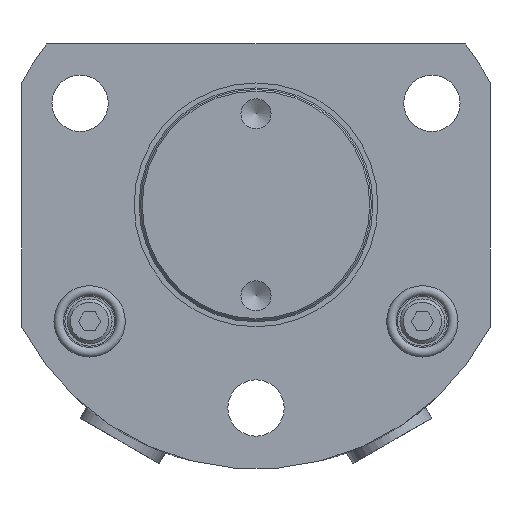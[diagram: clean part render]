
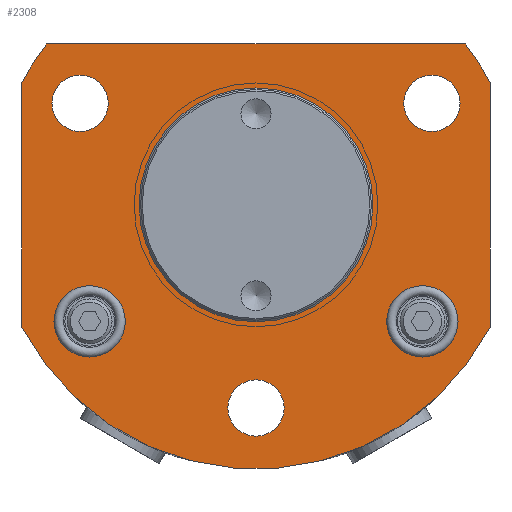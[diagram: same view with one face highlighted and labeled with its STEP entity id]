
A CAD part, front view. The second image highlights one B-rep face of the part: STEP entity #2308.
In plain terms, the highlighted planar face has unit normal (0, -1, 0).
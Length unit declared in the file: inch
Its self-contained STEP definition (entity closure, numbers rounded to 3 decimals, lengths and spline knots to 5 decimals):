
#152=FACE_BOUND('',#530,.T.);
#153=FACE_BOUND('',#531,.T.);
#154=FACE_BOUND('',#532,.T.);
#155=FACE_BOUND('',#533,.T.);
#156=FACE_BOUND('',#534,.T.);
#157=FACE_BOUND('',#535,.T.);
#194=PLANE('',#2683);
#355=FACE_OUTER_BOUND('',#529,.T.);
#529=EDGE_LOOP('',(#1829,#1830,#1831,#1832,#1833,#1834));
#530=EDGE_LOOP('',(#1835));
#531=EDGE_LOOP('',(#1836));
#532=EDGE_LOOP('',(#1837));
#533=EDGE_LOOP('',(#1838));
#534=EDGE_LOOP('',(#1839));
#535=EDGE_LOOP('',(#1840));
#652=CIRCLE('',#2567,0.2195);
#658=CIRCLE('',#2579,0.2195);
#674=CIRCLE('',#2610,0.17325);
#678=CIRCLE('',#2617,0.17325);
#682=CIRCLE('',#2624,0.17325);
#685=CIRCLE('',#2630,0.7195);
#712=CIRCLE('',#2676,1.625);
#713=CIRCLE('',#2679,1.625);
#714=CIRCLE('',#2682,1.625);
#838=LINE('',#3976,#978);
#841=LINE('',#3984,#981);
#844=LINE('',#3992,#984);
#978=VECTOR('',#3161,1.50602);
#981=VECTOR('',#3170,2.57723);
#984=VECTOR('',#3179,1.50602);
#1086=VERTEX_POINT('',#3692);
#1093=VERTEX_POINT('',#3715);
#1113=VERTEX_POINT('',#3849);
#1117=VERTEX_POINT('',#3862);
#1121=VERTEX_POINT('',#3875);
#1124=VERTEX_POINT('',#3886);
#1152=VERTEX_POINT('',#3972);
#1153=VERTEX_POINT('',#3974);
#1154=VERTEX_POINT('',#3978);
#1155=VERTEX_POINT('',#3982);
#1156=VERTEX_POINT('',#3986);
#1157=VERTEX_POINT('',#3990);
#1296=EDGE_CURVE('',#1086,#1086,#652,.T.);
#1305=EDGE_CURVE('',#1093,#1093,#658,.T.);
#1337=EDGE_CURVE('',#1113,#1113,#674,.T.);
#1343=EDGE_CURVE('',#1117,#1117,#678,.T.);
#1349=EDGE_CURVE('',#1121,#1121,#682,.T.);
#1353=EDGE_CURVE('',#1124,#1124,#685,.T.);
#1395=EDGE_CURVE('',#1153,#1152,#838,.T.);
#1397=EDGE_CURVE('',#1152,#1154,#712,.T.);
#1399=EDGE_CURVE('',#1154,#1155,#841,.T.);
#1401=EDGE_CURVE('',#1155,#1156,#713,.T.);
#1403=EDGE_CURVE('',#1156,#1157,#844,.T.);
#1404=EDGE_CURVE('',#1157,#1153,#714,.T.);
#1829=ORIENTED_EDGE('',*,*,#1403,.F.);
#1830=ORIENTED_EDGE('',*,*,#1401,.F.);
#1831=ORIENTED_EDGE('',*,*,#1399,.F.);
#1832=ORIENTED_EDGE('',*,*,#1397,.F.);
#1833=ORIENTED_EDGE('',*,*,#1395,.F.);
#1834=ORIENTED_EDGE('',*,*,#1404,.F.);
#1835=ORIENTED_EDGE('',*,*,#1296,.F.);
#1836=ORIENTED_EDGE('',*,*,#1305,.T.);
#1837=ORIENTED_EDGE('',*,*,#1337,.F.);
#1838=ORIENTED_EDGE('',*,*,#1343,.F.);
#1839=ORIENTED_EDGE('',*,*,#1349,.F.);
#1840=ORIENTED_EDGE('',*,*,#1353,.T.);
#2308=ADVANCED_FACE('',(#355,#152,#153,#154,#155,#156,#157),#194,.F.);
#2567=AXIS2_PLACEMENT_3D('',#3694,#2910,#2911);
#2579=AXIS2_PLACEMENT_3D('',#3716,#2937,#2938);
#2610=AXIS2_PLACEMENT_3D('',#3851,#3011,#3012);
#2617=AXIS2_PLACEMENT_3D('',#3864,#3027,#3028);
#2624=AXIS2_PLACEMENT_3D('',#3877,#3043,#3044);
#2630=AXIS2_PLACEMENT_3D('',#3887,#3056,#3057);
#2676=AXIS2_PLACEMENT_3D('',#3980,#3165,#3166);
#2679=AXIS2_PLACEMENT_3D('',#3988,#3174,#3175);
#2682=AXIS2_PLACEMENT_3D('',#3994,#3182,#3183);
#2683=AXIS2_PLACEMENT_3D('',#3995,#3184,#3185);
#2910=DIRECTION('center_axis',(0.,-1.,0.));
#2911=DIRECTION('ref_axis',(-1.,0.,0.));
#2937=DIRECTION('center_axis',(0.,1.,0.));
#2938=DIRECTION('ref_axis',(-1.,0.,0.));
#3011=DIRECTION('center_axis',(0.,-1.,0.));
#3012=DIRECTION('ref_axis',(0.5,0.,-0.866));
#3027=DIRECTION('center_axis',(0.,-1.,0.));
#3028=DIRECTION('ref_axis',(0.5,0.,0.866));
#3043=DIRECTION('center_axis',(0.,-1.,0.));
#3044=DIRECTION('ref_axis',(1.,0.,0.));
#3056=DIRECTION('center_axis',(0.,1.,0.));
#3057=DIRECTION('ref_axis',(0.,0.,1.));
#3161=DIRECTION('',(0.,0.,1.));
#3165=DIRECTION('center_axis',(0.,1.,0.));
#3166=DIRECTION('ref_axis',(-0.886,0.,0.463));
#3170=DIRECTION('',(1.,0.,0.));
#3174=DIRECTION('center_axis',(0.,1.,0.));
#3175=DIRECTION('ref_axis',(0.793,0.,0.609));
#3179=DIRECTION('',(0.,0.,-1.));
#3182=DIRECTION('center_axis',(0.,1.,0.));
#3183=DIRECTION('ref_axis',(0.886,0.,-0.463));
#3184=DIRECTION('center_axis',(0.,1.,0.));
#3185=DIRECTION('ref_axis',(0.,0.,1.));
#3692=CARTESIAN_POINT('',(-1.24344,0.,-0.71697));
#3694=CARTESIAN_POINT('Origin',(-1.02394,0.,-0.71697));
#3715=CARTESIAN_POINT('',(1.24344,0.,-0.71697));
#3716=CARTESIAN_POINT('Origin',(1.02394,0.,-0.71697));
#3849=CARTESIAN_POINT('',(1.16916,0.,0.47496));
#3851=CARTESIAN_POINT('Origin',(1.08253,0.,0.625));
#3862=CARTESIAN_POINT('',(-0.99591,0.,0.77504));
#3864=CARTESIAN_POINT('Origin',(-1.08253,0.,0.625));
#3875=CARTESIAN_POINT('',(-0.17325,0.,-1.25));
#3877=CARTESIAN_POINT('Origin',(0.,0.,-1.25));
#3886=CARTESIAN_POINT('',(0.,0.,-0.7195));
#3887=CARTESIAN_POINT('Origin',(0.,0.,0.));
#3972=CARTESIAN_POINT('',(-1.44,0.,0.75301));
#3974=CARTESIAN_POINT('',(-1.44,0.,-0.75301));
#3976=CARTESIAN_POINT('',(-1.44,0.,-0.75301));
#3978=CARTESIAN_POINT('',(-1.28861,0.,0.99));
#3980=CARTESIAN_POINT('Origin',(0.,0.,0.));
#3982=CARTESIAN_POINT('',(1.28861,0.,0.99));
#3984=CARTESIAN_POINT('',(-1.28861,0.,0.99));
#3986=CARTESIAN_POINT('',(1.44,0.,0.75301));
#3988=CARTESIAN_POINT('Origin',(0.,0.,0.));
#3990=CARTESIAN_POINT('',(1.44,0.,-0.75301));
#3992=CARTESIAN_POINT('',(1.44,0.,0.75301));
#3994=CARTESIAN_POINT('Origin',(0.,0.,0.));
#3995=CARTESIAN_POINT('Origin',(0.,0.,0.));
